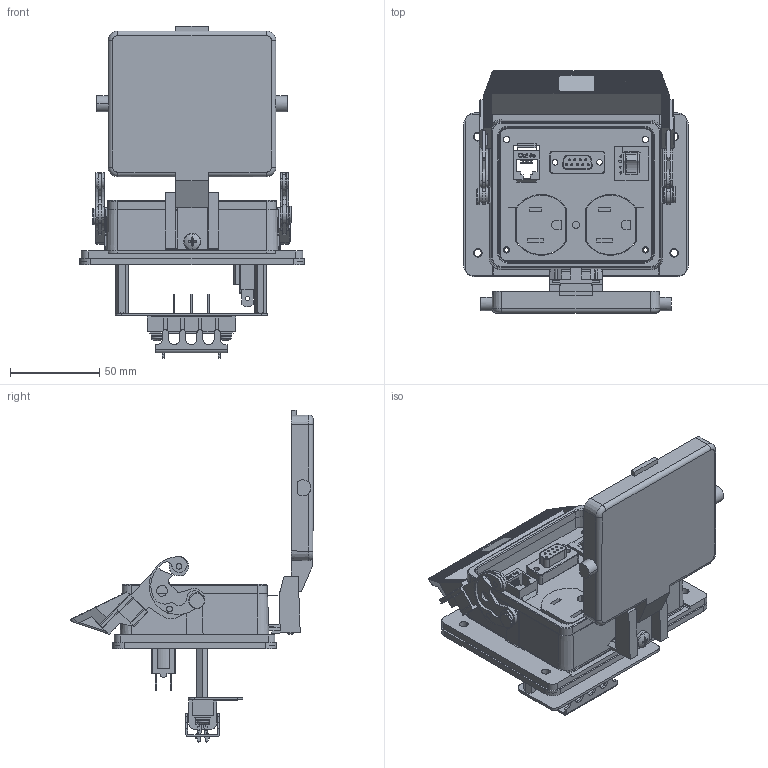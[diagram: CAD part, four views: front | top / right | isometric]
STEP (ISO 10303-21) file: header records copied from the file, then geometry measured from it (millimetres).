
FILE_DESCRIPTION (( 'STEP AP214' ), '1' );
FILE_NAME ('DP-DB9-RJ45-5R-32.STEP', '2006-07-13T20:42:41', ( 'Mencom User' ), ( 'Mencom Corporation' ), 'SwSTEP 2.0', 'SolidWorks 2006104', '' );
FILE_SCHEMA (( 'AUTOMOTIVE_DESIGN' ));
Length unit declared in the file: inch
Products named in the file (1): DP-DB9-RJ45-5R-32
Bounding box: 125.98 x 135.79 x 185.9 mm (x, y, z)
Surface area: 121402.2 mm2 (no closed solid volume)
Topology: 0 solids, 82 shells, 1450 faces, 5425 edges, 3937 vertices
Faces by surface type: plane 929, cylinder 421, torus 69, cone 18, bspline 7, sphere 6
Entity records: 79931 total; most frequent: CARTESIAN_POINT 15505, DIRECTION 9260, ORIENTED_EDGE 8689, EDGE_CURVE 5425, VERTEX_POINT 3937, VECTOR 3764, LINE 3764, AXIS2_PLACEMENT_3D 2748
